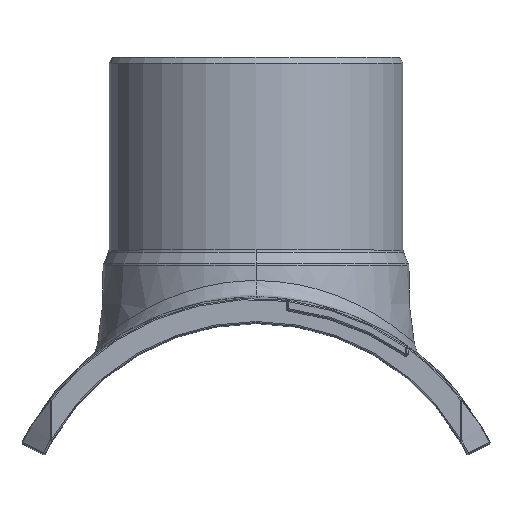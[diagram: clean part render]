
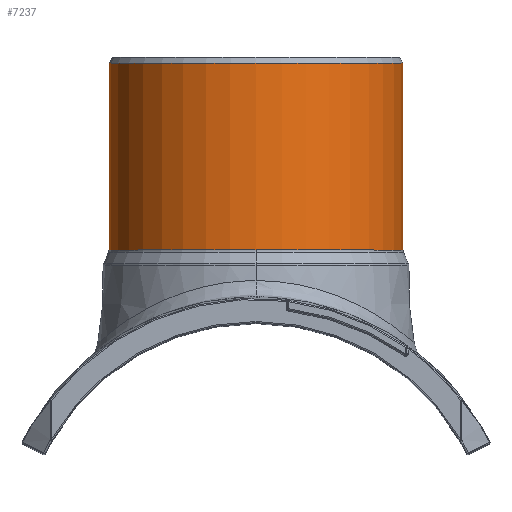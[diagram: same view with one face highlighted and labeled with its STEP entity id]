
A CAD part, top view. The second image highlights one B-rep face of the part: STEP entity #7237.
In plain terms, the highlighted cylindrical face has radius 125 mm (diameter 250 mm), a partial arc.
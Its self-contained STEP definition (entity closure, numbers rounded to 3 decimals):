
#733=CARTESIAN_POINT('',(0.,421.,0.));
#734=DIRECTION('',(0.,1.,0.));
#735=DIRECTION('',(-1.,0.,0.));
#736=AXIS2_PLACEMENT_3D('',#733,#734,#735);
#748=CARTESIAN_POINT('',(0.,262.083,0.));
#749=DIRECTION('',(0.,-1.,0.));
#750=DIRECTION('',(1.,0.,0.));
#751=AXIS2_PLACEMENT_3D('',#748,#749,#750);
#756=CARTESIAN_POINT('',(0.,262.083,0.));
#757=DIRECTION('',(0.,-1.,0.));
#758=DIRECTION('',(0.,0.,1.));
#759=AXIS2_PLACEMENT_3D('',#756,#757,#758);
#764=DIRECTION('',(0.,-1.,0.));
#765=VECTOR('',#764,158.917);
#766=CARTESIAN_POINT('',(-125.,421.,0.));
#767=LINE('151588',#766,#765);
#6073=DIRECTION('',(0.,-1.,0.));
#6074=VECTOR('',#6073,158.917);
#6075=CARTESIAN_POINT('',(125.,421.,0.));
#6076=LINE('151587',#6075,#6074);
#6084=CARTESIAN_POINT('',(125.,421.,0.));
#6085=CARTESIAN_POINT('',(-125.,421.,0.));
#6086=VERTEX_POINT('',#6084);
#6087=VERTEX_POINT('',#6085);
#6108=CARTESIAN_POINT('',(125.,262.083,0.));
#6109=CARTESIAN_POINT('',(0.,262.083,125.));
#6110=VERTEX_POINT('',#6108);
#6111=VERTEX_POINT('',#6109);
#6112=CARTESIAN_POINT('',(-125.,262.083,0.));
#6113=VERTEX_POINT('',#6112);
#7221=CARTESIAN_POINT('',(0.,426.,0.));
#7222=DIRECTION('',(0.,1.,0.));
#7223=DIRECTION('',(1.,0.,0.));
#7224=AXIS2_PLACEMENT_3D('',#7221,#7222,#7223);
#7225=CYLINDRICAL_SURFACE('4584',#7224,125.);
#7227=ORIENTED_EDGE('151579',*,*,#7226,.T.);
#7229=ORIENTED_EDGE('151581',*,*,#7228,.T.);
#7231=ORIENTED_EDGE('151588',*,*,#7230,.F.);
#7232=ORIENTED_EDGE('4600',*,*,#7215,.T.);
#7234=ORIENTED_EDGE('151587',*,*,#7233,.T.);
#7235=EDGE_LOOP('4584',(#7227,#7229,#7231,#7232,#7234));
#7236=FACE_OUTER_BOUND('4584',#7235,.F.);
#737=CIRCLE('4600',#736,125.);
#752=CIRCLE('151579',#751,125.);
#760=CIRCLE('151581',#759,125.);
#7215=EDGE_CURVE('4600',#6087,#6086,#737,.T.);
#7226=EDGE_CURVE('151579',#6110,#6111,#752,.T.);
#7228=EDGE_CURVE('151581',#6111,#6113,#760,.T.);
#7230=EDGE_CURVE('151588',#6087,#6113,#767,.T.);
#7233=EDGE_CURVE('151587',#6086,#6110,#6076,.T.);
#7237=ADVANCED_FACE('4584',(#7236),#7225,.T.);
